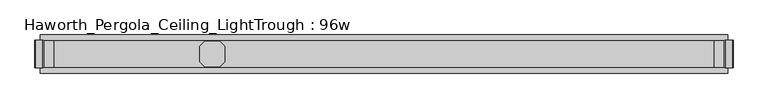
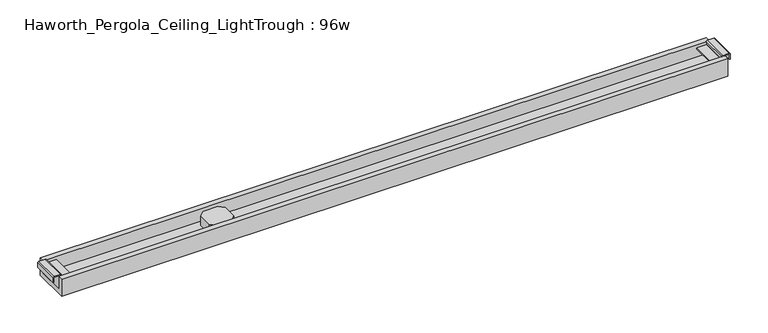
"""IFC4 building model written with IfcOpenShell, lengths in millimetres: furniture geometry, Haworth_Pergola_Ceiling_LightTrough : 96w."""

import ifcopenshell
import ifcopenshell.guid

model = None  # the IFC model being written
_history = None  # IfcOwnerHistory: only IFC2X3 demands one
_inside = {}  # id of a spatial element -> (the spatial element, [elements in it])
_under = {}  # id of a project, library or spatial element -> (it, [spatial elements below it])
_declared = {}  # id of a project -> (the project, [libraries it declares])
_typed = {}  # id of a type object -> (the type object, [elements of that type])
_made_of = {}  # id of a material, layer set ... -> (it, [elements and type objects made of it])


def new_model(schema):
    """Start an empty IFC model of exactly this schema.

    Asked for "IFC4X3", IfcOpenShell would pick the latest addendum, in which some entities
    have other attributes; the version numbers below select the first issue.
    IFC2X3 requires an IfcOwnerHistory on every rooted entity: one is made here for all.
    """
    global model, _history
    if schema == "IFC4X3":
        model = ifcopenshell.file(schema_version=(4, 3, 0, 0))
    else:
        model = ifcopenshell.file(schema=schema)
    _inside.clear()
    _under.clear()
    _declared.clear()
    _typed.clear()
    _made_of.clear()
    _history = None
    if model.schema == "IFC2X3":
        org = make("IfcOrganization", Name="unknown")
        user = make(
            "IfcPersonAndOrganization",
            ThePerson=make("IfcPerson", FamilyName="unknown"),
            TheOrganization=org,
        )
        app = make(
            "IfcApplication",
            ApplicationDeveloper=org,
            Version="unknown",
            ApplicationFullName="unknown",
            ApplicationIdentifier="unknown",
        )
        _history = make(
            "IfcOwnerHistory",
            OwningUser=user,
            OwningApplication=app,
            ChangeAction="ADDED",
            CreationDate=0,
        )
    return model


def make(cls, **values):
    """One entity of the class cls with the attributes given. An attribute that is None is left unset."""
    return model.create_entity(
        cls, **{name: value for name, value in values.items() if value is not None}
    )


def rooted(cls, **values):
    """An entity with a GlobalId (a new one), such as an element, a storey or a relation."""
    return make(cls, GlobalId=ifcopenshell.guid.new(), OwnerHistory=_history, **values)


def si_unit(unit_type, name, prefix=None):
    """IfcSIUnit, for example si_unit("LENGTHUNIT", "METRE", prefix="MILLI")."""
    return make("IfcSIUnit", UnitType=unit_type, Prefix=prefix, Name=name)


def assignment(units):
    """IfcUnitAssignment: the units of a project."""
    return None if units is None else make("IfcUnitAssignment", Units=units)


def point(xyz):
    """IfcCartesianPoint."""
    return None if xyz is None else make("IfcCartesianPoint", Coordinates=xyz)


def direction(xyz):
    """IfcDirection."""
    return None if xyz is None else make("IfcDirection", DirectionRatios=xyz)


def frame(location, z_axis=None, x_axis=None):
    """IfcAxis2Placement3D, a coordinate frame: its origin and axes. An axis left out is left unset."""
    return make(
        "IfcAxis2Placement3D",
        Location=point(location),
        Axis=direction(z_axis),
        RefDirection=direction(x_axis),
    )


def frame_2d(location, x_axis=None):
    """IfcAxis2Placement2D, a coordinate frame in the plane: its origin and x axis."""
    return make(
        "IfcAxis2Placement2D", Location=point(location), RefDirection=direction(x_axis)
    )


def origin():
    """The frame at (0, 0, 0) with its axes left unset."""
    return frame((0.0, 0.0, 0.0))


def place(relative_to, where):
    """IfcLocalPlacement: puts the frame where relative to a parent placement (None: the world)."""
    return make(
        "IfcLocalPlacement", PlacementRelTo=relative_to, RelativePlacement=where
    )


def context(
    kind, dimensions, precision=None, world=None, true_north=None, identifier=None
):
    """IfcGeometricRepresentationContext, for example the 3D "Model" context."""
    return make(
        "IfcGeometricRepresentationContext",
        ContextIdentifier=identifier,
        ContextType=kind,
        CoordinateSpaceDimension=dimensions,
        Precision=precision,
        WorldCoordinateSystem=world,
        TrueNorth=true_north,
    )


def project(units=None, contexts=None):
    """IfcProject with its units and contexts."""
    return rooted(
        "IfcProject",
        Name="project",
        RepresentationContexts=contexts,
        UnitsInContext=assignment(units),
    )


def spatial(cls, under=None, at=None, **own):
    """A site, building, storey or space (cls), placed at a placement, below another one or the project."""
    s = rooted(cls, ObjectPlacement=at, **own)
    if under is not None:
        _under.setdefault(under.id(), (under, []))[1].append(s)
    return s


def polyline(points):
    """IfcPolyline through the points."""
    return make("IfcPolyline", Points=[point(p) for p in points])


def circle_curve(where, radius):
    """IfcCircle in the frame where."""
    return make("IfcCircle", Position=where, Radius=radius)


def trimmed(basis, trim1, trim2, sense, master):
    """IfcTrimmedCurve: the piece of a basis curve between two trims."""
    return make(
        "IfcTrimmedCurve",
        BasisCurve=basis,
        Trim1=trim1,
        Trim2=trim2,
        SenseAgreement=sense,
        MasterRepresentation=master,
    )


def segment(curve, same_sense, transition):
    """IfcCompositeCurveSegment."""
    return make(
        "IfcCompositeCurveSegment",
        Transition=transition,
        SameSense=same_sense,
        ParentCurve=curve,
    )


def composite_curve(segments, self_intersect=None):
    """IfcCompositeCurve: segments joined end to end."""
    return make("IfcCompositeCurve", Segments=segments, SelfIntersect=self_intersect)


def outline(outer, holes=None, kind="AREA"):
    """IfcArbitraryClosedProfileDef: a profile drawn as a closed curve; with holes, ...WithVoids."""
    if holes is None:
        return make("IfcArbitraryClosedProfileDef", ProfileType=kind, OuterCurve=outer)
    return make(
        "IfcArbitraryProfileDefWithVoids",
        ProfileType=kind,
        OuterCurve=outer,
        InnerCurves=holes,
    )


def extrude(swept, where, along, depth):
    """IfcExtrudedAreaSolid: the profile swept, set in the frame where, extruded along a direction by depth."""
    return make(
        "IfcExtrudedAreaSolid",
        SweptArea=swept,
        Position=where,
        ExtrudedDirection=direction(along),
        Depth=depth,
    )


def shape(context_of_items, identifier, shape_type, items):
    """IfcShapeRepresentation: the items that make up one representation, for example the "Body"."""
    return make(
        "IfcShapeRepresentation",
        ContextOfItems=context_of_items,
        RepresentationIdentifier=identifier,
        RepresentationType=shape_type,
        Items=items,
    )


def source(mapping_origin, context_of_items, identifier, shape_type, items):
    """IfcRepresentationMap: a shape defined once, which mapped items show again and again."""
    return make(
        "IfcRepresentationMap",
        MappingOrigin=mapping_origin,
        MappedRepresentation=shape(context_of_items, identifier, shape_type, items),
    )


def transform(
    local_origin,
    x_axis=None,
    y_axis=None,
    z_axis=None,
    scale=None,
    scale2=None,
    scale3=None,
    uniform=True,
):
    """IfcCartesianTransformationOperator3D, or its non-uniform kind. x_axis, y_axis, z_axis: its Axis1, 2, 3."""
    if uniform:
        return make(
            "IfcCartesianTransformationOperator3D",
            Axis1=direction(x_axis),
            Axis2=direction(y_axis),
            LocalOrigin=point(local_origin),
            Scale=scale,
            Axis3=direction(z_axis),
        )
    return make(
        "IfcCartesianTransformationOperator3DnonUniform",
        Axis1=direction(x_axis),
        Axis2=direction(y_axis),
        LocalOrigin=point(local_origin),
        Scale=scale,
        Axis3=direction(z_axis),
        Scale2=scale2,
        Scale3=scale3,
    )


def mapped(mapping_source, mapping_target):
    """IfcMappedItem: shows the shape of a source again, moved by a transform."""
    return make(
        "IfcMappedItem", MappingSource=mapping_source, MappingTarget=mapping_target
    )


def made_of(thing, what):
    """Note that an element or type object is made of a material, layer set ...; save() writes the relation."""
    if what is not None:
        _made_of.setdefault(what.id(), (what, []))[1].append(thing)
    return thing


def element(
    cls,
    number,
    at=None,
    inside=None,
    cuts=None,
    type_object=None,
    material=None,
    context=None,
    identifier="Body",
    shape_type=None,
    held_by="IfcProductDefinitionShape",
    body=None,
    shapes=None,
    **own,
):
    """One element of the class cls, such as IfcWall. Its Tag is "e" and its number.

    at: its placement. inside: the storey or other place that contains it. cuts: it is an
    opening in that element (IfcRelVoidsElement). A single representation is given by context,
    identifier, shape_type and body (its items); several are given by shapes. held_by: the class
    of the entity that holds the representations. save() writes the other relations.
    """
    e = rooted(cls, Tag="e%d" % number, ObjectPlacement=at, **own)
    if body is not None:
        shapes = [shape(context, identifier, shape_type, body)]
    if shapes is not None:
        e.Representation = make(held_by, Representations=shapes)
    if inside is not None:
        _inside.setdefault(inside.id(), (inside, []))[1].append(e)
    if cuts is not None:
        rooted(
            "IfcRelVoidsElement", RelatingBuildingElement=cuts, RelatedOpeningElement=e
        )
    if type_object is not None:
        _typed.setdefault(type_object.id(), (type_object, []))[1].append(e)
    return made_of(e, material)


def aggregate(whole, parts):
    """IfcRelAggregates: a whole, such as a stair, and the parts it consists of."""
    return rooted("IfcRelAggregates", RelatingObject=whole, RelatedObjects=parts)


def save(model, path):
    """Write the relations noted so far, then the file.

    IfcRelAggregates (storeys below a building ...), IfcRelContainedInSpatialStructure (elements
    in a storey), IfcRelDefinesByType, IfcRelAssociatesMaterial and IfcRelDeclares: one each for
    every whole, place, type object, material and project.
    """
    for whole, parts in _under.values():
        aggregate(whole, parts)
    for where, things in _inside.values():
        rooted(
            "IfcRelContainedInSpatialStructure",
            RelatedElements=things,
            RelatingStructure=where,
        )
    for kind, things in _typed.values():
        rooted("IfcRelDefinesByType", RelatedObjects=things, RelatingType=kind)
    for what, things in _made_of.values():
        rooted("IfcRelAssociatesMaterial", RelatedObjects=things, RelatingMaterial=what)
    for by, libraries in _declared.values():
        rooted("IfcRelDeclares", RelatingContext=by, RelatedDefinitions=libraries)
    model.write(path)


def haworth_pergola_ceiling_lighttrough_96w_c26e20a5(model_context):
    return source(origin(), model_context, "Body", "SweptSolid", [
        extrude(outline(polyline([(-274.3580002, 26.8840513), (-256.2840485, 44.9580002), (-202.5159516, 44.9580002), (-184.4419998, 26.8840513), (-184.4419998, -26.8840485), (-202.5159516, -44.9580002), (-256.2840485, -44.9580002), (-274.3580002, -26.8840485), (-274.3580002, 26.8840513)])), frame((0.0, 0.0, 2389.4796), z_axis=(0.0, 0.0, 1.0), x_axis=(1.0, 0.0, 0.0)), (0.0, 0.0, 1.0), 38.0999994),
        extrude(outline(composite_curve([segment(polyline([(2418.3545999, 1618.7534303), (2437.4045999, 1618.7534303)]), True, "CONTINUOUS"), segment(trimmed(circle_curve(frame_2d((2437.4045999, 1615.0934293)), 3.660001), [point((2437.4045999, 1618.7534303))], [point((2441.0646008, 1615.0934293))], False, "CARTESIAN"), True, "CONTINUOUS"), segment(polyline([(2441.0646008, 1615.0934293), (2441.0646008, 1591.6934303)]), True, "CONTINUOUS"), segment(trimmed(circle_curve(frame_2d((2437.0478931, 1592.0670697)), 4.0340485), [point((2441.0646008, 1591.6934303))], [point((2437.0478931, 1588.0330212))], False, "CARTESIAN"), True, "CONTINUOUS"), segment(polyline([(2437.0478931, 1588.0330212), (2426.6645986, 1588.0330212), (2425.6646, 1587.0330226), (2425.6646, 1551.5434301), (2423.0046, 1551.5434301), (2423.0046, 1587.0334301), (2423.0046, 1597.4999999), (2389.4796, 1597.4999999), (2389.4796, 1599.4), (2437.0478931, 1599.4), (2437.0478931, 1597.4999999), (2426.6645986, 1597.4999999), (2426.6645986, 1590.69343), (2437.0478931, 1590.69343), (2438.4045979, 1591.6934303), (2438.4045979, 1615.0934316), (2437.4045999, 1616.0934296), (2418.3545999, 1616.0934296), (2418.3545999, 1618.7534303)]), True, "CONTINUOUS")], self_intersect=False)), frame((0.0, -48.650001, 0.0), z_axis=(0.0, 1.0, 0.0), x_axis=(0.0, 0.0, 1.0)), (0.0, 0.0, 1.0), 97.3000021),
        extrude(outline(composite_curve([segment(polyline([(2418.3545999, -858.3534303), (2418.3545999, -855.6934296), (2437.4045999, -855.6934296), (2438.4045979, -854.6934316), (2438.4045979, -831.2934303), (2437.0478931, -830.29343), (2426.6645986, -830.29343), (2426.6645986, -837.1), (2437.0478931, -837.1), (2437.0478931, -839.0), (2389.4796, -839.0), (2389.4796, -837.1), (2423.0046, -837.1), (2423.0046, -826.6334301), (2423.0046, -791.1434301), (2425.6646, -791.1434301), (2425.6646, -826.6330226), (2426.6645986, -827.6330212), (2437.0478931, -827.6330212)]), True, "CONTINUOUS"), segment(trimmed(circle_curve(frame_2d((2437.0478931, -831.6670697)), 4.0340485), [point((2437.0478931, -827.6330212))], [point((2441.0646008, -831.2934303))], False, "CARTESIAN"), True, "CONTINUOUS"), segment(polyline([(2441.0646008, -831.2934303), (2441.0646008, -854.6934294)]), True, "CONTINUOUS"), segment(trimmed(circle_curve(frame_2d((2437.4045999, -854.6934294)), 3.660001), [point((2441.0646008, -854.6934294))], [point((2437.4045999, -858.3534303))], False, "CARTESIAN"), True, "CONTINUOUS"), segment(polyline([(2437.4045999, -858.3534303), (2418.3545999, -858.3534303)]), True, "CONTINUOUS")], self_intersect=False)), frame((0.0, -48.650001, 0.0), z_axis=(0.0, 1.0, 0.0), x_axis=(0.0, 0.0, 1.0)), (0.0, 0.0, 1.0), 97.3000021),
        extrude(outline(polyline([(67.700001, 2370.4296), (-67.700001, 2370.4296), (-67.700001, 2437.0478931), (-48.650001, 2437.0478931), (-48.650001, 2389.4796), (48.650001, 2389.4796), (48.650001, 2437.0478931), (67.700001, 2437.0478931), (67.700001, 2370.4296)])), frame((-839.0, 0.0, 0.0), z_axis=(1.0, 0.0, 0.0), x_axis=(0.0, 1.0, 0.0)), (0.0, 0.0, 1.0), 2438.4),
    ])


if __name__ == "__main__":
    model = new_model("IFC4")
    model_context = context("Model", 3, world=origin())
    ifc_project = project(units=[si_unit("LENGTHUNIT", "METRE", prefix="MILLI")], contexts=[model_context])
    site = spatial("IfcSite", under=ifc_project)
    building = spatial("IfcBuilding", under=site)
    placement = place(None, origin())
    haworth_pergola_ceiling_lighttrough_96w_shape = haworth_pergola_ceiling_lighttrough_96w_c26e20a5(model_context)
    element("IfcFurniture", 1, ObjectType="Haworth_Pergola_Ceiling_LightTrough : 96w", at=placement, inside=building, context=model_context, shape_type="MappedRepresentation", body=[
        mapped(haworth_pergola_ceiling_lighttrough_96w_shape, transform((0.0, 0.0, 0.0), x_axis=(1.0, 0.0, 0.0), y_axis=(0.0, 1.0, 0.0), z_axis=(0.0, 0.0, 1.0))),
    ])
    save(model, "model.ifc")
